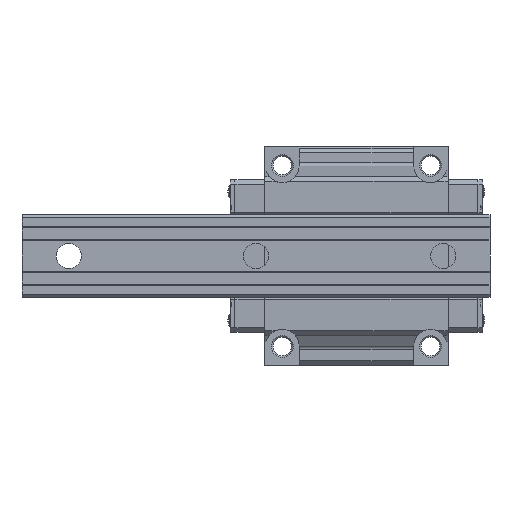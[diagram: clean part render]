
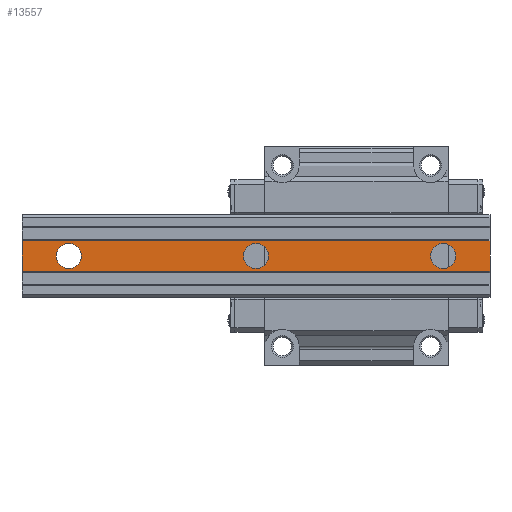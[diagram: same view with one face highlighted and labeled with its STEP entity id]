
A CAD part, front view. The second image highlights one B-rep face of the part: STEP entity #13557.
In plain terms, the highlighted planar face has unit normal (0, -1, 0).
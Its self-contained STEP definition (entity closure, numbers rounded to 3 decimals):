
#142 = CARTESIAN_POINT ( 'NONE',  ( 0., 0., 0. ) ) ;
#311 = EDGE_LOOP ( 'NONE', ( #10748, #1869 ) ) ;
#487 = VECTOR ( 'NONE', #10208, 1000. ) ;
#784 = DIRECTION ( 'NONE',  ( 0., 0., -1. ) ) ;
#857 = EDGE_CURVE ( 'NONE', #9905, #4571, #14857, .T. ) ;
#906 = AXIS2_PLACEMENT_3D ( 'NONE', #6694, #9248, #14827 ) ;
#931 = CARTESIAN_POINT ( 'NONE',  ( 120., 0., -8. ) ) ;
#1069 = VECTOR ( 'NONE', #16243, 1000. ) ;
#1703 = DIRECTION ( 'NONE',  ( 0., 0., -1. ) ) ;
#1784 = DIRECTION ( 'NONE',  ( 0., 0., -1. ) ) ;
#1869 = ORIENTED_EDGE ( 'NONE', *, *, #11374, .F. ) ;
#1902 = CARTESIAN_POINT ( 'NONE',  ( -150., 0., 24.294 ) ) ;
#2288 = EDGE_CURVE ( 'NONE', #17636, #3093, #15315, .T. ) ;
#2346 = CARTESIAN_POINT ( 'NONE',  ( 150., 0., 9.75 ) ) ;
#2409 = EDGE_CURVE ( 'NONE', #15424, #16226, #4661, .T. ) ;
#2553 = DIRECTION ( 'NONE',  ( 0., 0., -1. ) ) ;
#2898 = LINE ( 'NONE', #14901, #1069 ) ;
#3093 = VERTEX_POINT ( 'NONE', #15905 ) ;
#3161 = ORIENTED_EDGE ( 'NONE', *, *, #10604, .F. ) ;
#3242 = VECTOR ( 'NONE', #15128, 1000. ) ;
#3316 = CARTESIAN_POINT ( 'NONE',  ( 150., 0., 24.294 ) ) ;
#3482 = FACE_BOUND ( 'NONE', #311, .T. ) ;
#3697 = CIRCLE ( 'NONE', #16537, 8. ) ;
#3714 = ORIENTED_EDGE ( 'NONE', *, *, #2409, .F. ) ;
#3791 = AXIS2_PLACEMENT_3D ( 'NONE', #8772, #9932, #14076 ) ;
#4339 = AXIS2_PLACEMENT_3D ( 'NONE', #16533, #13718, #13804 ) ;
#4571 = VERTEX_POINT ( 'NONE', #8551 ) ;
#4661 = CIRCLE ( 'NONE', #3791, 8. ) ;
#4669 = FACE_BOUND ( 'NONE', #16288, .T. ) ;
#4681 = CARTESIAN_POINT ( 'NONE',  ( -120., 0., 8. ) ) ;
#4752 = EDGE_LOOP ( 'NONE', ( #14862, #14177, #13190, #9347 ) ) ;
#4924 = VERTEX_POINT ( 'NONE', #11165 ) ;
#5392 = EDGE_CURVE ( 'NONE', #5604, #17636, #2898, .T. ) ;
#5492 = CARTESIAN_POINT ( 'NONE',  ( 150., 0., -9.75 ) ) ;
#5604 = VERTEX_POINT ( 'NONE', #8961 ) ;
#5717 = VERTEX_POINT ( 'NONE', #17330 ) ;
#6353 = ORIENTED_EDGE ( 'NONE', *, *, #857, .F. ) ;
#6694 = CARTESIAN_POINT ( 'NONE',  ( 120., 0., 0. ) ) ;
#7264 = LINE ( 'NONE', #1902, #3242 ) ;
#7524 = CIRCLE ( 'NONE', #906, 8. ) ;
#7543 = FACE_BOUND ( 'NONE', #12154, .T. ) ;
#8469 = EDGE_CURVE ( 'NONE', #3093, #5717, #17681, .T. ) ;
#8497 = VERTEX_POINT ( 'NONE', #11382 ) ;
#8551 = CARTESIAN_POINT ( 'NONE',  ( 120., 0., 8. ) ) ;
#8616 = CIRCLE ( 'NONE', #4339, 8. ) ;
#8772 = CARTESIAN_POINT ( 'NONE',  ( -120., 0., 0. ) ) ;
#8961 = CARTESIAN_POINT ( 'NONE',  ( -150., 0., 9.75 ) ) ;
#9248 = DIRECTION ( 'NONE',  ( 0., -1., 0. ) ) ;
#9347 = ORIENTED_EDGE ( 'NONE', *, *, #8469, .F. ) ;
#9463 = EDGE_CURVE ( 'NONE', #8497, #4924, #3697, .T. ) ;
#9905 = VERTEX_POINT ( 'NONE', #931 ) ;
#9932 = DIRECTION ( 'NONE',  ( 0., -1., 0. ) ) ;
#10086 = AXIS2_PLACEMENT_3D ( 'NONE', #11381, #16807, #10648 ) ;
#10121 = FACE_OUTER_BOUND ( 'NONE', #4752, .T. ) ;
#10126 = CARTESIAN_POINT ( 'NONE',  ( -120., 0., -8. ) ) ;
#10208 = DIRECTION ( 'NONE',  ( -1., 0., 0. ) ) ;
#10271 = AXIS2_PLACEMENT_3D ( 'NONE', #14424, #15734, #784 ) ;
#10604 = EDGE_CURVE ( 'NONE', #16226, #15424, #8616, .T. ) ;
#10648 = DIRECTION ( 'NONE',  ( 0., 0., 1. ) ) ;
#10662 = CARTESIAN_POINT ( 'NONE',  ( 0., 0., 0. ) ) ;
#10748 = ORIENTED_EDGE ( 'NONE', *, *, #9463, .F. ) ;
#11165 = CARTESIAN_POINT ( 'NONE',  ( 0., 0., 8. ) ) ;
#11172 = DIRECTION ( 'NONE',  ( 0., -1., 0. ) ) ;
#11289 = PLANE ( 'NONE',  #10086 ) ;
#11374 = EDGE_CURVE ( 'NONE', #4924, #8497, #14115, .T. ) ;
#11381 = CARTESIAN_POINT ( 'NONE',  ( 150., 0., 24.5 ) ) ;
#11382 = CARTESIAN_POINT ( 'NONE',  ( 0., 0., -8. ) ) ;
#11422 = EDGE_CURVE ( 'NONE', #5604, #5717, #7264, .T. ) ;
#12154 = EDGE_LOOP ( 'NONE', ( #6353, #16728 ) ) ;
#13190 = ORIENTED_EDGE ( 'NONE', *, *, #11422, .T. ) ;
#13557 = ADVANCED_FACE ( 'NONE', ( #10121, #4669, #7543, #3482 ), #11289, .F. ) ;
#13718 = DIRECTION ( 'NONE',  ( 0., -1., 0. ) ) ;
#13804 = DIRECTION ( 'NONE',  ( 0., 0., -1. ) ) ;
#14076 = DIRECTION ( 'NONE',  ( 0., 0., -1. ) ) ;
#14115 = CIRCLE ( 'NONE', #15509, 8. ) ;
#14177 = ORIENTED_EDGE ( 'NONE', *, *, #5392, .F. ) ;
#14207 = EDGE_CURVE ( 'NONE', #4571, #9905, #7524, .T. ) ;
#14424 = CARTESIAN_POINT ( 'NONE',  ( 120., 0., 0. ) ) ;
#14803 = DIRECTION ( 'NONE',  ( 0., -1., 0. ) ) ;
#14827 = DIRECTION ( 'NONE',  ( 0., 0., -1. ) ) ;
#14857 = CIRCLE ( 'NONE', #10271, 8. ) ;
#14862 = ORIENTED_EDGE ( 'NONE', *, *, #2288, .F. ) ;
#14901 = CARTESIAN_POINT ( 'NONE',  ( 150., 0., 9.75 ) ) ;
#15128 = DIRECTION ( 'NONE',  ( 0., 0., -1. ) ) ;
#15186 = VECTOR ( 'NONE', #1703, 1000. ) ;
#15315 = LINE ( 'NONE', #3316, #15186 ) ;
#15424 = VERTEX_POINT ( 'NONE', #10126 ) ;
#15509 = AXIS2_PLACEMENT_3D ( 'NONE', #10662, #14803, #2553 ) ;
#15734 = DIRECTION ( 'NONE',  ( 0., -1., 0. ) ) ;
#15905 = CARTESIAN_POINT ( 'NONE',  ( 150., 0., -9.75 ) ) ;
#16226 = VERTEX_POINT ( 'NONE', #4681 ) ;
#16243 = DIRECTION ( 'NONE',  ( 1., 0., 0. ) ) ;
#16288 = EDGE_LOOP ( 'NONE', ( #3714, #3161 ) ) ;
#16533 = CARTESIAN_POINT ( 'NONE',  ( -120., 0., 0. ) ) ;
#16537 = AXIS2_PLACEMENT_3D ( 'NONE', #142, #11172, #1784 ) ;
#16728 = ORIENTED_EDGE ( 'NONE', *, *, #14207, .F. ) ;
#16807 = DIRECTION ( 'NONE',  ( 0., 1., 0. ) ) ;
#17330 = CARTESIAN_POINT ( 'NONE',  ( -150., 0., -9.75 ) ) ;
#17636 = VERTEX_POINT ( 'NONE', #2346 ) ;
#17681 = LINE ( 'NONE', #5492, #487 ) ;
